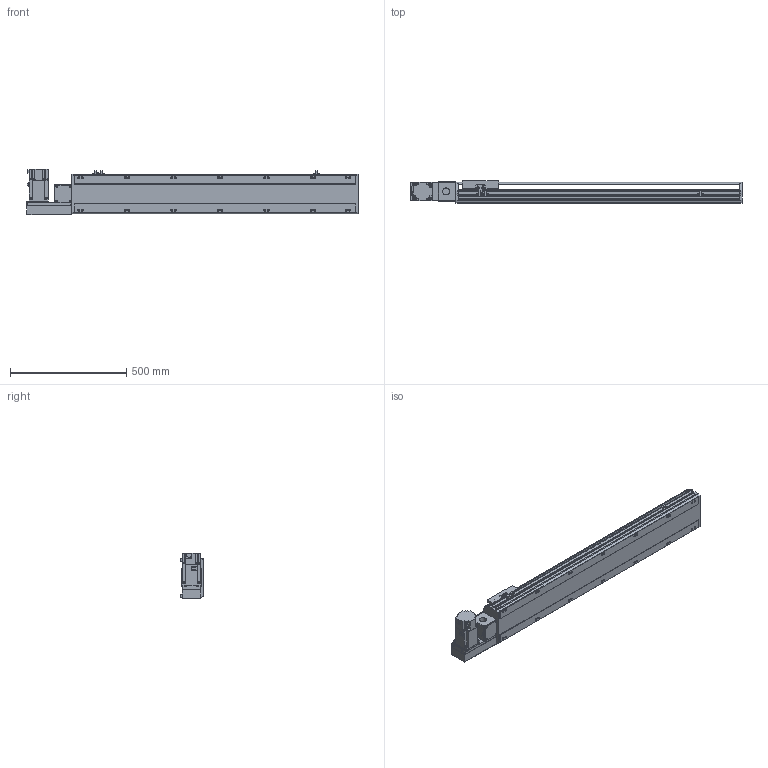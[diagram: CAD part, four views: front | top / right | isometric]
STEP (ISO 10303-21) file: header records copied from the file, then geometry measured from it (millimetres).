
FILE_DESCRIPTION( ( 'STEP AP214' ), '1' );
FILE_NAME( 'x:/temp/worker_3/temp/exporttempdir_5796_102_L7rbI/format_0/PBS170-P40-S950-L-T75-C1-N(0).stp', '2022-06-07T06:54:52', ( 'License CC BY-ND 4.0' ), ( 'CADENAS' ), ' ', 'PARTsolutions', ' ' );
FILE_SCHEMA( ( 'AUTOMOTIVE_DESIGN { 1 0 10303 214 1 1 1 1 }' ) );
Length unit declared in the file: millimetre
Products named in the file (7): PBS170-P40-S950-L-T75-C1-N(0); _PBS170-S950()_body; _PBS170T-L_motors; _T75-p1; _PBS170_sliser; _PBS170_plant; _PBS170_sensor
Assembly tree (8 placements, depth 2):
  PBS170-P40-S950-L-T75-C1-N(0)
    _PBS170-S950()_body
    _PBS170T-L_motors
    _T75-p1
    _PBS170_sliser
    _PBS170_plant
    _PBS170_sensor  x3
Bounding box: 1428 x 97 x 197.3 mm (x, y, z)
Volume: 10634739.7 mm3; surface area: 1396961.2 mm2
Topology: 8 solids, 8 shells, 1066 faces, 2835 edges, 1848 vertices
Faces by surface type: plane 681, cylinder 331, cone 44, sphere 8, torus 2
Full cylindrical faces by diameter (mm): 3.242 x4, 4 x2, 4.4 x4, 4.5 x6, 4.917 x4, 6 x9, 6.647 x22, 7 x2, 7.5 x4, 8 x8, 8.5 x14, 10 x4, 10.5 x14, 11 x2, 30 x2, 40 x1, 70 x1
Entity records: 39098 total; most frequent: CARTESIAN_POINT 6053, DIRECTION 5230, ORIENTED_EDGE 4968, EDGE_CURVE 2484, AXIS2_PLACEMENT_3D 1807, VERTEX_POINT 1706, LINE 1616, VECTOR 1616
